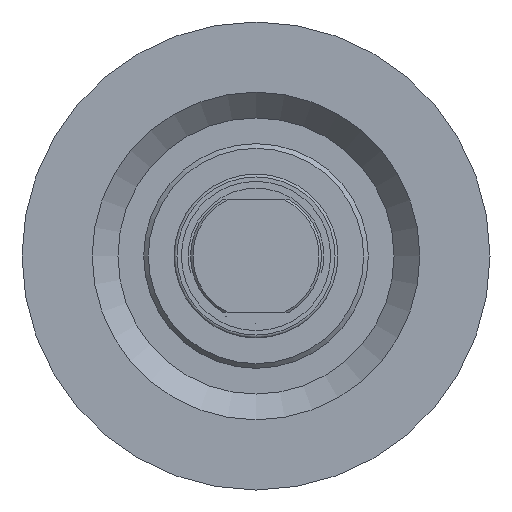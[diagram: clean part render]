
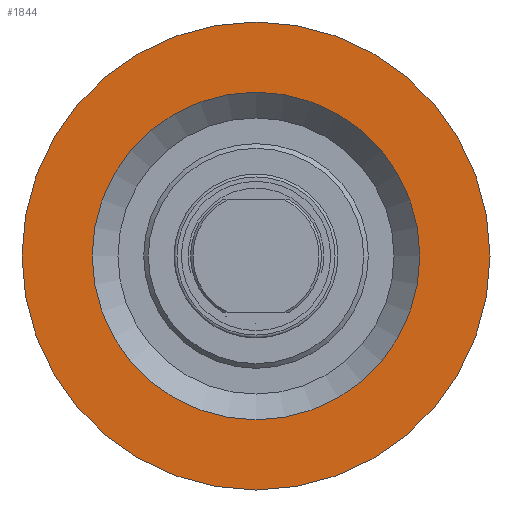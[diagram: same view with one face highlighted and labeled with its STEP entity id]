
A CAD part, left-side view. The second image highlights one B-rep face of the part: STEP entity #1844.
In plain terms, the highlighted planar face has unit normal (-1, 0, 0).
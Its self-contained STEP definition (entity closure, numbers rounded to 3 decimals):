
#196=FACE_BOUND('',#405,.T.);
#238=PLANE('',#2275);
#290=FACE_OUTER_BOUND('',#404,.T.);
#404=EDGE_LOOP('',(#1372,#1373));
#405=EDGE_LOOP('',(#1374,#1375));
#670=CIRCLE('',#2244,50.);
#671=CIRCLE('',#2245,50.);
#689=CIRCLE('',#2273,35.);
#690=CIRCLE('',#2274,35.);
#828=VERTEX_POINT('',#3214);
#829=VERTEX_POINT('',#3216);
#847=VERTEX_POINT('',#3269);
#848=VERTEX_POINT('',#3271);
#1034=EDGE_CURVE('',#828,#829,#670,.T.);
#1035=EDGE_CURVE('',#829,#828,#671,.T.);
#1060=EDGE_CURVE('',#848,#847,#689,.T.);
#1061=EDGE_CURVE('',#847,#848,#690,.T.);
#1372=ORIENTED_EDGE('',*,*,#1035,.F.);
#1373=ORIENTED_EDGE('',*,*,#1034,.F.);
#1374=ORIENTED_EDGE('',*,*,#1060,.T.);
#1375=ORIENTED_EDGE('',*,*,#1061,.T.);
#1844=ADVANCED_FACE('',(#290,#196),#238,.T.);
#2244=AXIS2_PLACEMENT_3D('',#3217,#2583,#2584);
#2245=AXIS2_PLACEMENT_3D('',#3218,#2585,#2586);
#2273=AXIS2_PLACEMENT_3D('',#3272,#2648,#2649);
#2274=AXIS2_PLACEMENT_3D('',#3273,#2650,#2651);
#2275=AXIS2_PLACEMENT_3D('',#3274,#2652,#2653);
#2583=DIRECTION('center_axis',(1.,0.,0.));
#2584=DIRECTION('ref_axis',(0.,0.,-1.));
#2585=DIRECTION('center_axis',(1.,0.,0.));
#2586=DIRECTION('ref_axis',(0.,0.,-1.));
#2648=DIRECTION('center_axis',(1.,0.,0.));
#2649=DIRECTION('ref_axis',(0.,0.,-1.));
#2650=DIRECTION('center_axis',(1.,0.,0.));
#2651=DIRECTION('ref_axis',(0.,0.,-1.));
#2652=DIRECTION('center_axis',(-1.,0.,0.));
#2653=DIRECTION('ref_axis',(0.,0.,1.));
#3214=CARTESIAN_POINT('',(-10.5,-50.,0.));
#3216=CARTESIAN_POINT('',(-10.5,50.,0.));
#3217=CARTESIAN_POINT('Origin',(-10.5,0.,0.));
#3218=CARTESIAN_POINT('Origin',(-10.5,0.,0.));
#3269=CARTESIAN_POINT('',(-10.5,-35.,0.));
#3271=CARTESIAN_POINT('',(-10.5,35.,0.));
#3272=CARTESIAN_POINT('Origin',(-10.5,0.,0.));
#3273=CARTESIAN_POINT('Origin',(-10.5,0.,0.));
#3274=CARTESIAN_POINT('Origin',(-10.5,50.,0.));
